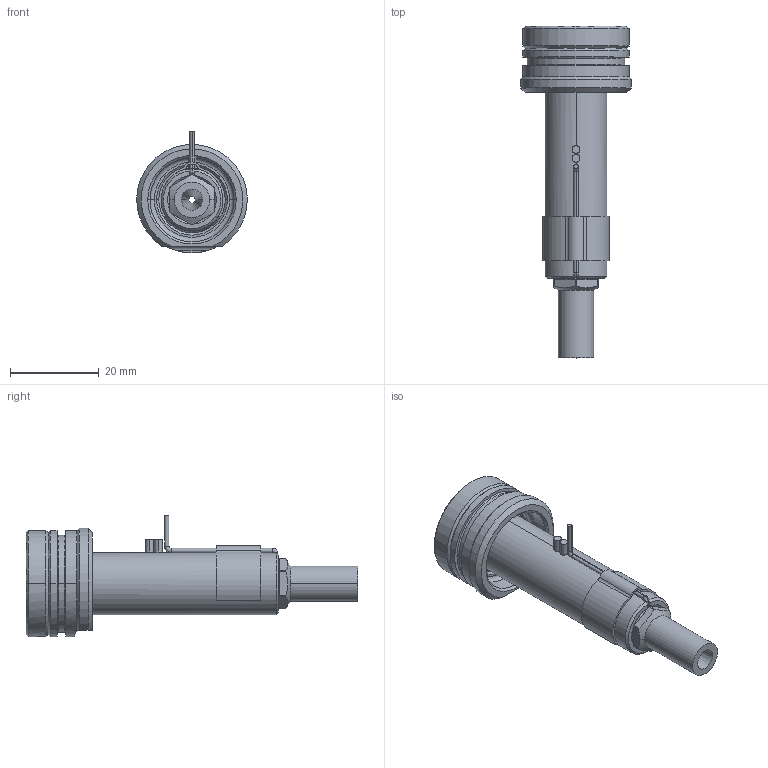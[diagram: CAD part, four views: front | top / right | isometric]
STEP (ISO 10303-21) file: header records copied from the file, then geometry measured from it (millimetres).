
FILE_DESCRIPTION((''),'2;1');
FILE_NAME('EO04_SG_ESG_050_SW','2024-02-19T12:12:55',('sundharh'),(''),'CREO PARAMETRIC BY PTC INC, 2023154','CREO PARAMETRIC BY PTC INC, 2023154','');
FILE_SCHEMA(('CONFIG_CONTROL_DESIGN'));
Length unit declared in the file: millimetre
Products named in the file (1): EO04_SG_ESG_050_SW
Bounding box: 24.99 x 75 x 27.5 mm (x, y, z)
Volume: 12638.6 mm3; surface area: 6908.3 mm2
Topology: 2 solids, 2 shells, 182 faces, 461 edges, 277 vertices
Faces by surface type: cylinder 67, plane 45, cone 34, torus 22, bspline 11, sphere 3
Entity records: 6337 total; most frequent: CARTESIAN_POINT 1942, DIRECTION 952, ORIENTED_EDGE 906, EDGE_CURVE 453, AXIS2_PLACEMENT_3D 396, VERTEX_POINT 277, CIRCLE 225, EDGE_LOOP 196
